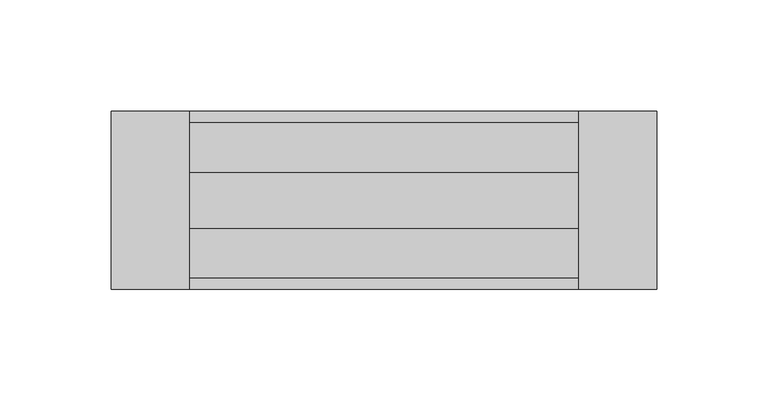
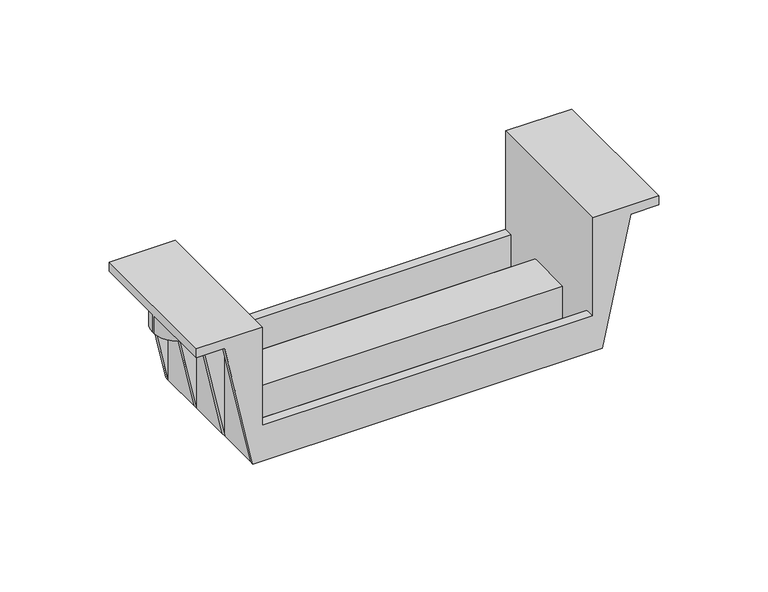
"""IFC4 building model written with IfcOpenShell, lengths in millimetres: proxy geometry, SVG_Support-Basorplast : Basorplast SVG 150."""

from ifc_helpers import new_model, si_unit, frame, origin, place, context, project, spatial, circle_curve, source, transform, mapped, element, save
from ifc_brep_helpers import plane_surface, cylinder_surface, advanced_brep


def generic_models_b6d866a1(model_context):
    return source(origin(), model_context, "Body", "AdvancedBrep", [
        advanced_brep(
        [(92.5, -40.0, 0.0), (107.5, -40.0, 70.0), (122.5, -40.0, 70.0), (122.5, -40.0, 75.0), (87.5, -40.0, 75.0), (87.5, -40.0, 20.0), (-87.5, -40.0, 20.0), (-87.5, -40.0, 75.0), (-122.5, -40.0, 75.0), (-122.5, -40.0, 70.0), (-107.5, -40.0, 70.0), (-92.5, -40.0, 0.0), (87.5, 40.0, 75.0), (122.5, 40.0, 75.0), (122.5, 40.0, 70.0), (107.5, 40.0, 70.0), (92.5, 40.0, 0.0), (-92.5, 40.0, 0.0), (-107.5, 40.0, 70.0), (-122.5, 40.0, 70.0), (-122.5, 40.0, 75.0), (-87.5, 40.0, 75.0), (-87.5, 40.0, 20.0), (87.5, 40.0, 20.0), (87.5, 35.0, 20.0), (87.5, 35.0, 2.0), (87.5, 12.5, 2.0), (87.5, 12.5, 20.0), (87.5, -12.5, 20.0), (87.5, -12.5, 2.0), (87.5, -35.0, 2.0), (87.5, -35.0, 20.0), (92.5, 38.0, 0.0), (92.5, 14.0, 0.0), (92.5, 12.0, 0.0), (92.5, -12.0, 0.0), (92.5, -14.0, 0.0), (92.5, -38.0, 0.0), (-92.5, -38.0, 0.0), (-92.5, -14.0, 0.0), (-92.5, -12.0, 0.0), (-92.5, 12.0, 0.0), (-92.5, 14.0, 0.0), (-92.5, 38.0, 0.0), (82.5, 10.0, 0.0), (-82.5, 10.0, 0.0), (-82.5, -10.0, 0.0), (82.5, -10.0, 0.0), (107.5, -38.0, 70.0), (107.5, 38.0, 70.0), (105.3571429, 14.0, 60.0), (105.3571429, 12.0, 60.0), (105.3571429, -12.0, 60.0), (105.3571429, -14.0, 60.0), (92.5, -38.0, 70.0), (92.5, -14.0, 70.0), (108.53576, -14.0, 70.0), (122.5, -1.0, 70.0), (-122.5, -1.0, 70.0), (-108.53576, -14.0, 70.0), (-92.5, -14.0, 70.0), (-92.5, -38.0, 70.0), (-107.5, -38.0, 70.0), (122.5, 0.0, 70.0), (108.5, 14.0, 70.0), (92.5, 14.0, 70.0), (92.5, 38.0, 70.0), (-107.5, 38.0, 70.0), (-92.5, 38.0, 70.0), (-92.5, 14.0, 70.0), (-108.5, 14.0, 70.0), (-122.5, 0.0, 70.0), (122.5, -1.0, 60.0), (122.5, 0.0, 60.0), (-105.3571429, -14.0, 60.0), (-105.3571429, -12.0, 60.0), (-105.3571429, 12.0, 60.0), (-105.3571429, 14.0, 60.0), (-87.5, -35.0, 20.0), (-87.5, -35.0, 2.0), (-87.5, -12.5, 2.0), (-87.5, -12.5, 20.0), (-87.5, 12.5, 20.0), (-87.5, 12.5, 2.0), (-87.5, 35.0, 2.0), (-87.5, 35.0, 20.0), (-122.5, 0.0, 60.0), (-122.5, -1.0, 60.0), (-108.5, 14.0, 60.0), (-108.53576, -14.0, 60.0), (-92.5, 12.0, 60.0), (-92.5, -12.0, 60.0), (108.5, 14.0, 60.0), (108.53576, -14.0, 60.0), (92.5, 12.0, 60.0), (92.5, -12.0, 60.0), (82.5, 10.0, 18.0), (82.5, -10.0, 18.0), (-82.5, -10.0, 18.0), (-82.5, 10.0, 18.0)],
        [
            (0, 1),
            (1, 2),
            (2, 3),
            (3, 4),
            (4, 5),
            (5, 6),
            (6, 7),
            (7, 8),
            (8, 9),
            (9, 10),
            (10, 11),
            (11, 0),
            (12, 13),
            (13, 14),
            (14, 15),
            (15, 16),
            (16, 17),
            (17, 18),
            (18, 19),
            (19, 20),
            (20, 21),
            (21, 22),
            (22, 23),
            (23, 12),
            (4, 12),
            (23, 24),
            (24, 25),
            (25, 26),
            (26, 27),
            (27, 28),
            (28, 29),
            (29, 30),
            (30, 31),
            (31, 5),
            (16, 32),
            (32, 33),
            (33, 34),
            (34, 35),
            (35, 36),
            (36, 37),
            (37, 0),
            (11, 38),
            (38, 39),
            (39, 40),
            (40, 41),
            (41, 42),
            (42, 43),
            (43, 17),
            (44, 45),
            (45, 46),
            (46, 47),
            (47, 44),
            (37, 48),
            (48, 1),
            (15, 49),
            (49, 32),
            (33, 50),
            (50, 51),
            (51, 34),
            (35, 52),
            (52, 53),
            (53, 36),
            (48, 54),
            (54, 55),
            (55, 56),
            (56, 57, circle_curve(frame((108.53576, 0.0, 70.0), z_axis=(0.0, 0.0, 1.0), x_axis=(1.0, 0.0, 0.0)), 14.0)),
            (57, 2),
            (9, 58),
            (58, 59, circle_curve(frame((-108.53576, 0.0, 70.0), z_axis=(0.0, 0.0, 1.0), x_axis=(1.0, 0.0, 0.0)), 14.0)),
            (59, 60),
            (60, 61),
            (61, 62),
            (62, 10),
            (14, 63),
            (63, 64, circle_curve(frame((108.5, 0.0, 70.0), z_axis=(0.0, 0.0, 1.0), x_axis=(1.0, 0.0, 0.0)), 14.0)),
            (64, 65),
            (65, 66),
            (66, 49),
            (18, 67),
            (67, 68),
            (68, 69),
            (69, 70),
            (70, 71, circle_curve(frame((-108.5, 0.0, 70.0), z_axis=(0.0, 0.0, 1.0), x_axis=(1.0, 0.0, 0.0)), 14.0)),
            (71, 19),
            (57, 72),
            (72, 73),
            (73, 63),
            (13, 3),
            (62, 38),
            (43, 67),
            (39, 74),
            (74, 75),
            (75, 40),
            (41, 76),
            (76, 77),
            (77, 42),
            (21, 7),
            (6, 78),
            (78, 79),
            (79, 80),
            (80, 81),
            (81, 82),
            (82, 83),
            (83, 84),
            (84, 85),
            (85, 22),
            (20, 8),
            (71, 86),
            (86, 87),
            (87, 58),
            (79, 30),
            (29, 80),
            (25, 84),
            (83, 26),
            (24, 85),
            (82, 27),
            (78, 31),
            (28, 81),
            (43, 68),
            (77, 88),
            (88, 70),
            (69, 42),
            (61, 38),
            (60, 39),
            (59, 89),
            (89, 74),
            (41, 90),
            (90, 76),
            (75, 91),
            (91, 40),
            (91, 90),
            (65, 33),
            (32, 66),
            (64, 92),
            (92, 50),
            (53, 93),
            (93, 56),
            (55, 36),
            (54, 37),
            (34, 94),
            (94, 95),
            (95, 35),
            (95, 52),
            (51, 94),
            (96, 97),
            (97, 98),
            (98, 99),
            (99, 96),
            (99, 45),
            (44, 96),
            (98, 46),
            (97, 47),
            (89, 87, circle_curve(frame((-108.53576, 0.0, 60.0), z_axis=(0.0, 0.0, -1.0), x_axis=(1.0, 0.0, 0.0)), 14.0)),
            (86, 88, circle_curve(frame((-108.5, 0.0, 60.0), z_axis=(0.0, 0.0, -1.0), x_axis=(1.0, 0.0, 0.0)), 14.0)),
            (92, 73, circle_curve(frame((108.5, 0.0, 60.0), z_axis=(0.0, 0.0, -1.0), x_axis=(1.0, 0.0, 0.0)), 14.0)),
            (72, 93, circle_curve(frame((108.53576, 0.0, 60.0), z_axis=(0.0, 0.0, -1.0), x_axis=(1.0, 0.0, 0.0)), 14.0)),
        ],
        [
            plane_surface(frame((87.5, -40.0, 75.0), z_axis=(0.0, -1.0, 0.0), x_axis=(0.0, 0.0, -1.0))),
            plane_surface(frame((87.5, 40.0, 75.0), z_axis=(0.0, 1.0, 0.0), x_axis=(0.0, 0.0, 1.0))),
            plane_surface(frame((87.5, -40.0, 75.0), z_axis=(-1.0, 0.0, 0.0), x_axis=(0.0, 1.0, 0.0))),
            plane_surface(frame((87.5, -40.0, 0.0), z_axis=(0.0, 0.0, -1.0), x_axis=(0.0, 1.0, 0.0))),
            plane_surface(frame((92.5, -40.0, 0.0), z_axis=(0.9778024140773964, 0.0, -0.20952908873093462), x_axis=(0.0, 1.0, 0.0))),
            plane_surface(frame((107.5, -40.0, 70.0), z_axis=(0.0, 0.0, -1.0), x_axis=(0.0, 1.0, 0.0))),
            plane_surface(frame((122.5, -40.0, 70.0), z_axis=(1.0, 0.0, 0.0), x_axis=(0.0, 1.0, 0.0))),
            plane_surface(frame((122.5, -40.0, 75.0), z_axis=(0.0, 0.0, 1.0), x_axis=(0.0, 1.0, 0.0))),
            plane_surface(frame((-107.5, -40.0, 70.0), z_axis=(-0.9778024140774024, 0.0, -0.20952908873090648), x_axis=(0.0, 1.0, 0.0))),
            plane_surface(frame((-87.5, -40.0, 0.0), z_axis=(1.0, 0.0, 0.0), x_axis=(0.0, 1.0, 0.0))),
            plane_surface(frame((-87.5, -40.0, 75.0), z_axis=(0.0, 0.0, 1.0), x_axis=(0.0, 1.0, 0.0))),
            plane_surface(frame((-122.5, -40.0, 75.0), z_axis=(-1.0, 0.0, 0.0), x_axis=(0.0, 1.0, 0.0))),
            plane_surface(frame((-87.5, 35.0, 2.0), z_axis=(0.0, 0.0, 1.0), x_axis=(1.0, 0.0, 0.0))),
            plane_surface(frame((87.5, 35.0, 20.0), z_axis=(0.0, -1.0, 0.0), x_axis=(0.0, 0.0, -1.0))),
            plane_surface(frame((-87.5, 12.5, 20.0), z_axis=(0.0, 1.0, 0.0), x_axis=(0.0, 0.0, -1.0))),
            plane_surface(frame((-87.5, -35.0, 20.0), z_axis=(0.0, 1.0, 0.0), x_axis=(0.0, 0.0, -1.0))),
            plane_surface(frame((87.5, -12.5, 20.0), z_axis=(0.0, -1.0, 0.0), x_axis=(0.0, 0.0, -1.0))),
            plane_surface(frame((-92.5, 38.0, 70.0), z_axis=(0.0, -1.0, 0.0), x_axis=(0.0, 0.0, -1.0))),
            plane_surface(frame((-122.5, 14.0, 70.0), z_axis=(0.0, 1.0, 0.0), x_axis=(0.0, 0.0, -1.0))),
            plane_surface(frame((-92.5, 14.0, 70.0), z_axis=(-1.0, 0.0, 0.0), x_axis=(0.0, 0.0, -1.0))),
            plane_surface(frame((-122.5, -38.0, 70.0), z_axis=(0.0, 1.0, 0.0), x_axis=(0.0, 0.0, -1.0))),
            plane_surface(frame((-92.5, -38.0, 70.0), z_axis=(-1.0, 0.0, 0.0), x_axis=(0.0, 0.0, -1.0))),
            plane_surface(frame((-92.5, -14.0, 70.0), z_axis=(0.0, -1.0, 0.0), x_axis=(0.0, 0.0, -1.0))),
            plane_surface(frame((-92.5, 12.0, 70.0), z_axis=(0.0, -1.0, 0.0), x_axis=(0.0, 0.0, -1.0))),
            plane_surface(frame((-122.5, -12.0, 70.0), z_axis=(0.0, 1.0, 0.0), x_axis=(0.0, 0.0, -1.0))),
            plane_surface(frame((-92.5, -12.0, 70.0), z_axis=(-1.0, 0.0, 0.0), x_axis=(0.0, 0.0, -1.0))),
            plane_surface(frame((92.5, 38.0, 70.0), z_axis=(1.0, 0.0, 0.0), x_axis=(0.0, 0.0, -1.0))),
            plane_surface(frame((92.5, 14.0, 70.0), z_axis=(0.0, 1.0, 0.0), x_axis=(0.0, 0.0, -1.0))),
            plane_surface(frame((122.5, 38.0, 70.0), z_axis=(0.0, -1.0, 0.0), x_axis=(0.0, 0.0, -1.0))),
            plane_surface(frame((122.5, -14.0, 70.0), z_axis=(0.0, -1.0, 0.0), x_axis=(0.0, 0.0, -1.0))),
            plane_surface(frame((92.5, -14.0, 70.0), z_axis=(1.0, 0.0, 0.0), x_axis=(0.0, 0.0, -1.0))),
            plane_surface(frame((92.5, -38.0, 70.0), z_axis=(0.0, 1.0, 0.0), x_axis=(0.0, 0.0, -1.0))),
            plane_surface(frame((92.5, 12.0, 70.0), z_axis=(1.0, 0.0, 0.0), x_axis=(0.0, 0.0, -1.0))),
            plane_surface(frame((92.5, -12.0, 70.0), z_axis=(0.0, 1.0, 0.0), x_axis=(0.0, 0.0, -1.0))),
            plane_surface(frame((122.5, 12.0, 70.0), z_axis=(0.0, -1.0, 0.0), x_axis=(0.0, 0.0, -1.0))),
            plane_surface(frame((-87.5, 40.0, 20.0), z_axis=(0.0, 0.0, 1.0), x_axis=(-1.0, 0.0, 0.0))),
            plane_surface(frame((-82.5, 10.0, 18.0), z_axis=(0.0, 0.0, -1.0), x_axis=(-1.0, 0.0, 0.0))),
            plane_surface(frame((82.5, 10.0, 18.0), z_axis=(0.0, -1.0, 0.0), x_axis=(0.0, 0.0, -1.0))),
            plane_surface(frame((-82.5, 10.0, 18.0), z_axis=(1.0, 0.0, 0.0), x_axis=(0.0, 0.0, -1.0))),
            plane_surface(frame((-82.5, -10.0, 18.0), z_axis=(0.0, 1.0, 0.0), x_axis=(0.0, 0.0, -1.0))),
            plane_surface(frame((82.5, -10.0, 18.0), z_axis=(-1.0, 0.0, 0.0), x_axis=(0.0, 0.0, -1.0))),
            plane_surface(frame((-92.5, -14.0, 60.0), z_axis=(0.0, 0.0, -1.0), x_axis=(-1.0, 0.0, 0.0))),
            cylinder_surface(frame((-108.5, 0.0, 60.0), z_axis=(0.0, 0.0, 1.0), x_axis=(1.0, 0.0, 0.0)), 14.0),
            cylinder_surface(frame((-108.53576, 0.0, 60.0), z_axis=(0.0, 0.0, 1.0), x_axis=(1.0, 0.0, 0.0)), 14.0),
            cylinder_surface(frame((108.53576, 0.0, 0.0), z_axis=(0.0, 0.0, 1.0), x_axis=(1.0, 0.0, 0.0)), 14.0),
            cylinder_surface(frame((108.5, 0.0, 0.0), z_axis=(0.0, 0.0, 1.0), x_axis=(1.0, 0.0, 0.0)), 14.0),
        ],
        [
            (0, [[1, 2, 3, 4, 5, 6, 7, 8, 9, 10, 11, 12]]),
            (1, [[13, 14, 15, 16, 17, 18, 19, 20, 21, 22, 23, 24]]),
            (2, [[25, -24, 26, 27, 28, 29, 30, 31, 32, 33, 34, -5]]),
            (3, [[35, 36, 37, 38, 39, 40, 41, -12, 42, 43, 44, 45, 46, 47, 48, -17], [49, 50, 51, 52]]),
            (4, [[-1, -41, 53, 54]]),
            (4, [[-16, 55, 56, -35]]),
            (4, [[-37, 57, 58, 59]]),
            (4, [[-39, 60, 61, 62]]),
            (5, [[-2, -54, 63, 64, 65, 66, 67]]),
            (5, [[-10, 68, 69, 70, 71, 72, 73]]),
            (5, [[-15, 74, 75, 76, 77, 78, -55]]),
            (5, [[-19, 79, 80, 81, 82, 83, 84]]),
            (6, [[-3, -67, 85, 86, 87, -74, -14, 88]]),
            (7, [[-4, -88, -13, -25]]),
            (8, [[-11, -73, 89, -42]]),
            (8, [[-18, -48, 90, -79]]),
            (8, [[-44, 91, 92, 93]]),
            (8, [[-46, 94, 95, 96]]),
            (9, [[97, -7, 98, 99, 100, 101, 102, 103, 104, 105, 106, -22]]),
            (10, [[107, -8, -97, -21]]),
            (11, [[-9, -107, -20, -84, 108, 109, 110, -68]]),
            (12, [[-100, 111, -32, 112]]),
            (12, [[113, -104, 114, -28]]),
            (13, [[-113, -27, 115, -105]]),
            (14, [[-114, -103, 116, -29]]),
            (15, [[-111, -99, 117, -33]]),
            (16, [[-112, -31, 118, -101]]),
            (17, [[119, -80, -90]]),
            (18, [[-96, 120, 121, -82, 122]]),
            (19, [[-122, -81, -119, -47]]),
            (20, [[123, -89, -72]]),
            (21, [[-71, 124, -43, -123]]),
            (22, [[125, 126, -91, -124, -70]]),
            (23, [[-94, 127, 128]]),
            (24, [[-93, 129, 130]]),
            (25, [[-45, -130, 131, -127]]),
            (26, [[-77, 132, -36, 133]]),
            (27, [[134, 135, -57, -132, -76]]),
            (28, [[-133, -56, -78]]),
            (29, [[-62, 136, 137, -65, 138]]),
            (30, [[-138, -64, 139, -40]]),
            (31, [[-139, -63, -53]]),
            (32, [[-38, 140, 141, 142]]),
            (33, [[-60, -142, 143]]),
            (34, [[-59, 144, -140]]),
            (35, [[-6, -34, -117, -98]]),
            (35, [[-23, -106, -115, -26]]),
            (35, [[-30, -116, -102, -118]]),
            (36, [[145, 146, 147, 148]]),
            (37, [[-148, 149, -49, 150]]),
            (38, [[-147, 151, -50, -149]]),
            (39, [[-146, 152, -51, -151]]),
            (40, [[-145, -150, -52, -152]]),
            (41, [[153, -109, 154, -120, -95, -128, -131, -129, -92, -126]]),
            (41, [[155, -86, 156, -136, -61, -143, -141, -144, -58, -135]]),
            (42, [[-154, -108, -83, -121]]),
            (43, [[-153, -125, -69, -110]]),
            (44, [[-156, -85, -66, -137]]),
            (45, [[-155, -134, -75, -87]]),
        ],
    ),
    ])


if __name__ == "__main__":
    model = new_model("IFC4")
    model_context = context("Model", 3, world=origin())
    ifc_project = project(units=[si_unit("LENGTHUNIT", "METRE", prefix="MILLI")], contexts=[model_context])
    site = spatial("IfcSite", under=ifc_project)
    building = spatial("IfcBuilding", under=site)
    placement = place(None, origin())
    generic_models_shape = generic_models_b6d866a1(model_context)
    element("IfcBuildingElementProxy", 1, Name="SVG_Support-Basorplast : Basorplast SVG 150", ObjectType="SVG_Support-Basorplast : Basorplast SVG 150", at=placement, inside=building, context=model_context, shape_type="MappedRepresentation", body=[
        mapped(generic_models_shape, transform((0.0, 0.0, 0.0), x_axis=(1.0, 0.0, 0.0), y_axis=(0.0, 1.0, 0.0), z_axis=(0.0, 0.0, 1.0))),
    ])
    save(model, "model.ifc")
